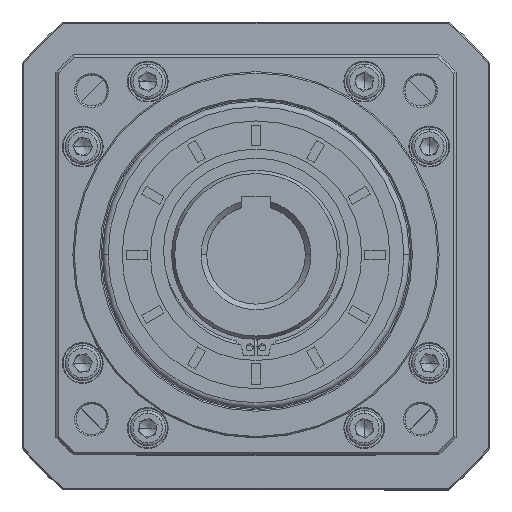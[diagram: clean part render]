
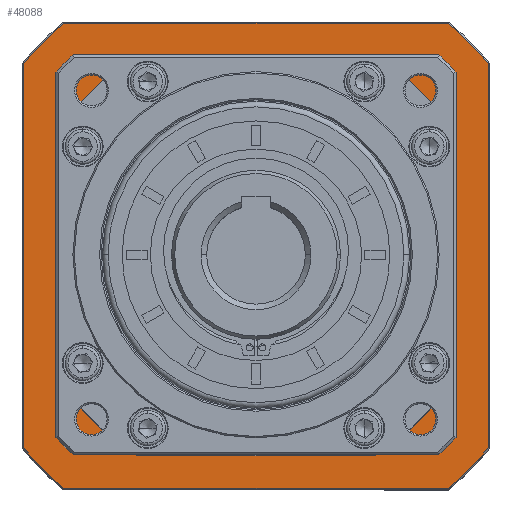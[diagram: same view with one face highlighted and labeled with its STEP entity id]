
A CAD part, top view. The second image highlights one B-rep face of the part: STEP entity #48088.
In plain terms, the highlighted planar face has unit normal (0, 0, 1).
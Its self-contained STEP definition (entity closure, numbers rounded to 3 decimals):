
#100 = DIRECTION ( 'NONE',  ( 1., 0., 0. ) ) ;
#3241 = DIRECTION ( 'NONE',  ( -1., 0., 0. ) ) ;
#3915 = EDGE_CURVE ( 'NONE', #8553, #30821, #76333, .T. ) ;
#4965 = DIRECTION ( 'NONE',  ( 0., -1., 0. ) ) ;
#5732 = ORIENTED_EDGE ( 'NONE', *, *, #113594, .F. ) ;
#5949 = DIRECTION ( 'NONE',  ( 0., 0., -1. ) ) ;
#5964 = VERTEX_POINT ( 'NONE', #60824 ) ;
#8455 = ORIENTED_EDGE ( 'NONE', *, *, #112403, .F. ) ;
#8553 = VERTEX_POINT ( 'NONE', #57894 ) ;
#8763 = FACE_OUTER_BOUND ( 'NONE', #107899, .T. ) ;
#8964 = ORIENTED_EDGE ( 'NONE', *, *, #112053, .F. ) ;
#9901 = AXIS2_PLACEMENT_3D ( 'NONE', #29142, #55061, #46090 ) ;
#10794 = CARTESIAN_POINT ( 'NONE',  ( 167.721, 100.69, -13.331 ) ) ;
#11121 = ORIENTED_EDGE ( 'NONE', *, *, #38815, .F. ) ;
#11484 = CARTESIAN_POINT ( 'NONE',  ( 209.599, 30.19, -13.331 ) ) ;
#11965 = DIRECTION ( 'NONE',  ( 0., -1., 0. ) ) ;
#12932 = LINE ( 'NONE', #93377, #98363 ) ;
#15639 = AXIS2_PLACEMENT_3D ( 'NONE', #69339, #5949, #112329 ) ;
#15712 = CARTESIAN_POINT ( 'NONE',  ( 238.221, 142.567, -13.331 ) ) ;
#15735 = LINE ( 'NONE', #73268, #70469 ) ;
#16918 = VERTEX_POINT ( 'NONE', #72606 ) ;
#17324 = CARTESIAN_POINT ( 'NONE',  ( 167.721, 100.69, -13.331 ) ) ;
#18632 = VERTEX_POINT ( 'NONE', #45154 ) ;
#18782 = CIRCLE ( 'NONE', #50400, 82. ) ;
#19228 = LINE ( 'NONE', #75297, #115708 ) ;
#20119 = DIRECTION ( 'NONE',  ( 0., 0., -1. ) ) ;
#20152 = DIRECTION ( 'NONE',  ( 0., -1., 0. ) ) ;
#20551 = DIRECTION ( 'NONE',  ( -1., 0., 0. ) ) ;
#20858 = EDGE_CURVE ( 'NONE', #45988, #102353, #27760, .T. ) ;
#23930 = CIRCLE ( 'NONE', #64704, 107. ) ;
#26569 = ORIENTED_EDGE ( 'NONE', *, *, #58965, .F. ) ;
#27760 = CIRCLE ( 'NONE', #41348, 82. ) ;
#27778 = AXIS2_PLACEMENT_3D ( 'NONE', #17324, #79894, #88955 ) ;
#27928 = CARTESIAN_POINT ( 'NONE',  ( 167.721, 100.69, -13.331 ) ) ;
#29142 = CARTESIAN_POINT ( 'NONE',  ( 167.721, 100.69, -13.331 ) ) ;
#29513 = EDGE_CURVE ( 'NONE', #95497, #68253, #12932, .T. ) ;
#30002 = DIRECTION ( 'NONE',  ( 0., 0., 1. ) ) ;
#30598 = ORIENTED_EDGE ( 'NONE', *, *, #32384, .F. ) ;
#30821 = VERTEX_POINT ( 'NONE', #33002 ) ;
#31054 = EDGE_CURVE ( 'NONE', #68253, #100406, #110210, .T. ) ;
#31992 = CARTESIAN_POINT ( 'NONE',  ( 85.221, 100.69, -13.331 ) ) ;
#32384 = EDGE_CURVE ( 'NONE', #43928, #87908, #23930, .T. ) ;
#32732 = VECTOR ( 'NONE', #45669, 1000. ) ;
#33002 = CARTESIAN_POINT ( 'NONE',  ( 85.221, 32.552, -13.331 ) ) ;
#34574 = CARTESIAN_POINT ( 'NONE',  ( 238.721, 30.19, -13.331 ) ) ;
#35951 = CARTESIAN_POINT ( 'NONE',  ( 125.844, 30.19, -13.331 ) ) ;
#36502 = ORIENTED_EDGE ( 'NONE', *, *, #20858, .F. ) ;
#37349 = CARTESIAN_POINT ( 'NONE',  ( 167.721, 100.69, -13.331 ) ) ;
#38525 = EDGE_CURVE ( 'NONE', #18632, #16918, #100740, .T. ) ;
#38815 = EDGE_CURVE ( 'NONE', #60405, #95497, #18782, .T. ) ;
#39001 = ORIENTED_EDGE ( 'NONE', *, *, #65011, .F. ) ;
#40644 = DIRECTION ( 'NONE',  ( 0., 1., 0. ) ) ;
#40804 = LINE ( 'NONE', #96525, #61807 ) ;
#41348 = AXIS2_PLACEMENT_3D ( 'NONE', #84354, #30002, #11965 ) ;
#43055 = DIRECTION ( 'NONE',  ( -1., 0., 0. ) ) ;
#43928 = VERTEX_POINT ( 'NONE', #82064 ) ;
#44637 = EDGE_CURVE ( 'NONE', #102353, #60405, #87302, .T. ) ;
#44864 = DIRECTION ( 'NONE',  ( 0., 0., 1. ) ) ;
#45154 = CARTESIAN_POINT ( 'NONE',  ( 235.859, 183.19, -13.331 ) ) ;
#45669 = DIRECTION ( 'NONE',  ( -1., 0., 0. ) ) ;
#45988 = VERTEX_POINT ( 'NONE', #15712 ) ;
#46090 = DIRECTION ( 'NONE',  ( -1., 0., 0. ) ) ;
#48088 = ADVANCED_FACE ( 'NONE', ( #8763, #94164 ), #110804, .F. ) ;
#48364 = DIRECTION ( 'NONE',  ( 1., 0., 0. ) ) ;
#50400 = AXIS2_PLACEMENT_3D ( 'NONE', #27928, #44864, #100 ) ;
#50630 = VECTOR ( 'NONE', #20152, 1000. ) ;
#50740 = VECTOR ( 'NONE', #97155, 1000. ) ;
#52537 = CARTESIAN_POINT ( 'NONE',  ( 99.584, 183.19, -13.331 ) ) ;
#53635 = CARTESIAN_POINT ( 'NONE',  ( 97.221, 142.567, -13.331 ) ) ;
#55061 = DIRECTION ( 'NONE',  ( 0., 0., -1. ) ) ;
#55648 = DIRECTION ( 'NONE',  ( 0., 0., 1. ) ) ;
#55693 = VERTEX_POINT ( 'NONE', #60567 ) ;
#56173 = DIRECTION ( 'NONE',  ( 0., 0., -1. ) ) ;
#56932 = CARTESIAN_POINT ( 'NONE',  ( 167.721, 100.69, -13.331 ) ) ;
#57343 = ORIENTED_EDGE ( 'NONE', *, *, #31054, .F. ) ;
#57894 = CARTESIAN_POINT ( 'NONE',  ( 99.584, 18.19, -13.331 ) ) ;
#58965 = EDGE_CURVE ( 'NONE', #100406, #73877, #74512, .T. ) ;
#60405 = VERTEX_POINT ( 'NONE', #64941 ) ;
#60567 = CARTESIAN_POINT ( 'NONE',  ( 238.221, 58.812, -13.331 ) ) ;
#60824 = CARTESIAN_POINT ( 'NONE',  ( 235.859, 18.19, -13.331 ) ) ;
#61807 = VECTOR ( 'NONE', #43055, 1000. ) ;
#63628 = CARTESIAN_POINT ( 'NONE',  ( 238.721, 171.19, -13.331 ) ) ;
#63889 = ORIENTED_EDGE ( 'NONE', *, *, #29513, .F. ) ;
#64704 = AXIS2_PLACEMENT_3D ( 'NONE', #37349, #56173, #82319 ) ;
#64941 = CARTESIAN_POINT ( 'NONE',  ( 125.844, 171.19, -13.331 ) ) ;
#65011 = EDGE_CURVE ( 'NONE', #16918, #68995, #114844, .T. ) ;
#66163 = ORIENTED_EDGE ( 'NONE', *, *, #44637, .F. ) ;
#68253 = VERTEX_POINT ( 'NONE', #91418 ) ;
#68995 = VERTEX_POINT ( 'NONE', #106826 ) ;
#69339 = CARTESIAN_POINT ( 'NONE',  ( 167.721, 100.69, -13.331 ) ) ;
#70469 = VECTOR ( 'NONE', #92729, 1000. ) ;
#71180 = EDGE_LOOP ( 'NONE', ( #36502, #8964, #115217, #26569, #57343, #63889, #11121, #66163 ) ) ;
#72266 = CARTESIAN_POINT ( 'NONE',  ( 250.221, 100.69, -13.331 ) ) ;
#72606 = CARTESIAN_POINT ( 'NONE',  ( 250.221, 168.827, -13.331 ) ) ;
#73161 = ORIENTED_EDGE ( 'NONE', *, *, #3915, .F. ) ;
#73268 = CARTESIAN_POINT ( 'NONE',  ( 238.221, 29.69, -13.331 ) ) ;
#73877 = VERTEX_POINT ( 'NONE', #11484 ) ;
#74512 = LINE ( 'NONE', #34574, #50740 ) ;
#75297 = CARTESIAN_POINT ( 'NONE',  ( 167.721, 183.19, -13.331 ) ) ;
#75773 = EDGE_CURVE ( 'NONE', #68995, #5964, #97563, .T. ) ;
#76333 = CIRCLE ( 'NONE', #15639, 107. ) ;
#78226 = VECTOR ( 'NONE', #40644, 1000. ) ;
#79894 = DIRECTION ( 'NONE',  ( 0., 0., 1. ) ) ;
#81776 = EDGE_CURVE ( 'NONE', #87908, #18632, #19228, .T. ) ;
#82064 = CARTESIAN_POINT ( 'NONE',  ( 85.221, 168.827, -13.331 ) ) ;
#82196 = DIRECTION ( 'NONE',  ( 1., 0., 0. ) ) ;
#82319 = DIRECTION ( 'NONE',  ( -1., 0., 0. ) ) ;
#84354 = CARTESIAN_POINT ( 'NONE',  ( 167.721, 100.69, -13.331 ) ) ;
#87302 = LINE ( 'NONE', #63628, #32732 ) ;
#87908 = VERTEX_POINT ( 'NONE', #52537 ) ;
#88955 = DIRECTION ( 'NONE',  ( 0., -1., 0. ) ) ;
#90448 = AXIS2_PLACEMENT_3D ( 'NONE', #90803, #55648, #82196 ) ;
#90803 = CARTESIAN_POINT ( 'NONE',  ( 167.721, 100.69, -13.331 ) ) ;
#91418 = CARTESIAN_POINT ( 'NONE',  ( 97.221, 58.812, -13.331 ) ) ;
#92729 = DIRECTION ( 'NONE',  ( 0., 1., 0. ) ) ;
#93377 = CARTESIAN_POINT ( 'NONE',  ( 97.221, 29.69, -13.331 ) ) ;
#93584 = AXIS2_PLACEMENT_3D ( 'NONE', #56932, #20119, #3241 ) ;
#94164 = FACE_BOUND ( 'NONE', #71180, .T. ) ;
#95497 = VERTEX_POINT ( 'NONE', #53635 ) ;
#95653 = CIRCLE ( 'NONE', #90448, 82. ) ;
#96525 = CARTESIAN_POINT ( 'NONE',  ( 167.721, 18.19, -13.331 ) ) ;
#97155 = DIRECTION ( 'NONE',  ( 1., 0., 0. ) ) ;
#97488 = CARTESIAN_POINT ( 'NONE',  ( 209.599, 171.19, -13.331 ) ) ;
#97563 = CIRCLE ( 'NONE', #114285, 107. ) ;
#98363 = VECTOR ( 'NONE', #4965, 1000. ) ;
#98619 = ORIENTED_EDGE ( 'NONE', *, *, #75773, .F. ) ;
#99999 = DIRECTION ( 'NONE',  ( 0., 0., -1. ) ) ;
#100406 = VERTEX_POINT ( 'NONE', #35951 ) ;
#100740 = CIRCLE ( 'NONE', #9901, 107. ) ;
#100859 = ORIENTED_EDGE ( 'NONE', *, *, #81776, .F. ) ;
#101568 = EDGE_CURVE ( 'NONE', #73877, #55693, #95653, .T. ) ;
#102353 = VERTEX_POINT ( 'NONE', #97488 ) ;
#104845 = LINE ( 'NONE', #31992, #78226 ) ;
#105398 = ORIENTED_EDGE ( 'NONE', *, *, #38525, .F. ) ;
#106826 = CARTESIAN_POINT ( 'NONE',  ( 250.221, 32.552, -13.331 ) ) ;
#107899 = EDGE_LOOP ( 'NONE', ( #8455, #98619, #39001, #105398, #100859, #30598, #5732, #73161 ) ) ;
#110210 = CIRCLE ( 'NONE', #27778, 82. ) ;
#110804 = PLANE ( 'NONE',  #93584 ) ;
#112053 = EDGE_CURVE ( 'NONE', #55693, #45988, #15735, .T. ) ;
#112329 = DIRECTION ( 'NONE',  ( -1., 0., 0. ) ) ;
#112403 = EDGE_CURVE ( 'NONE', #5964, #8553, #40804, .T. ) ;
#113594 = EDGE_CURVE ( 'NONE', #30821, #43928, #104845, .T. ) ;
#114285 = AXIS2_PLACEMENT_3D ( 'NONE', #10794, #99999, #20551 ) ;
#114844 = LINE ( 'NONE', #72266, #50630 ) ;
#115217 = ORIENTED_EDGE ( 'NONE', *, *, #101568, .F. ) ;
#115708 = VECTOR ( 'NONE', #48364, 1000. ) ;
